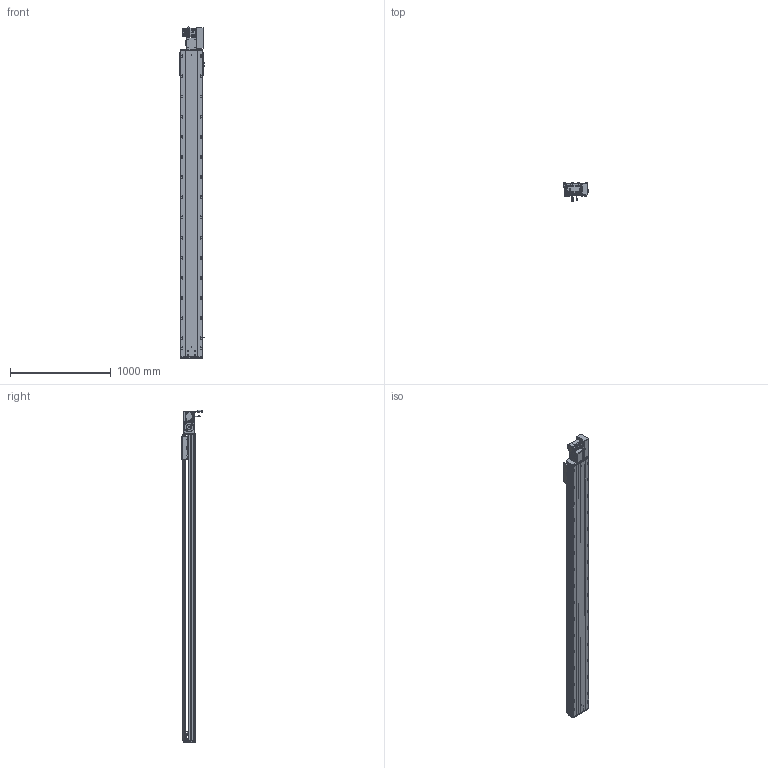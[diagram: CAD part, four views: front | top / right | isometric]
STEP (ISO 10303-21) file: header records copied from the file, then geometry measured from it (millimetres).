
FILE_DESCRIPTION (( 'STEP AP203' ), '1' );
FILE_NAME ('RY220-T-300-RK.SLDASM_2700.step', '2022-07-25T08:25:23', ( '' ), ( '' ), 'SwSTEP 2.0', 'SolidWorks 2016', '' );
FILE_SCHEMA (( 'CONFIG_CONTROL_DESIGN' ));
Length unit declared in the file: millimetre
Products named in the file (14): RY220-T-蛌殏萇儂假蚾啣(750W); 覜茼ん672; RY220-T-300-RK.SLDASM_2700; RY220翋肮祭謫裔啣; 怢湛750W_ECMA-CX0807ES; RY220-T菁釱-300_2700; RY220-T-湍謫欶(鍼踢); 滅袉蝶18-15; RY220-同步轮副支撑座6304×2; RY220翋肮祭謫釱; 110A-T-肮祭謫釱傷裔; RY220-T-300-奻裔啣_2700; RY220圉猾敕々湍臏賑輸; RY220-俋离672覜茼んえ
Assembly tree (18 placements, depth 2):
  RY220-T-300-RK.SLDASM_2700
    RY220-T菁釱-300_2700
    RY220翋肮祭謫釱
    覜茼ん672  x3
    RY220圉猾敕々湍臏賑輸
    RY220-T-300-奻裔啣_2700
    RY220-俋离672覜茼んえ
    滅袉蝶18-15  x3
    RY220翋肮祭謫裔啣  x2
    110A-T-肮祭謫釱傷裔
    怢湛750W_ECMA-CX0807ES
    RY220-T-湍謫欶(鍼踢)
    RY220-T-蛌殏萇儂假蚾啣(750W)
    RY220-同步轮副支撑座6304×2
Bounding box: 238.7 x 198.77 x 3295.24 mm (x, y, z)
Volume: 23260264.3 mm3; surface area: 7166652.2 mm2
Topology: 19 solids, 19 shells, 2974 faces, 8227 edges, 5158 vertices
Faces by surface type: cylinder 1462, plane 1069, cone 361, bspline 56, sphere 16, torus 10
Entity records: 99203 total; most frequent: CARTESIAN_POINT 28019, ORIENTED_EDGE 14714, DIRECTION 14184, EDGE_CURVE 7357, AXIS2_PLACEMENT_3D 5112, VERTEX_POINT 4782, LINE 3960, VECTOR 3960
